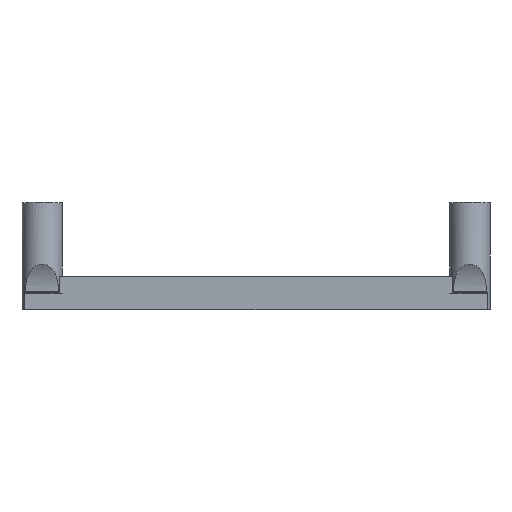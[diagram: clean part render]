
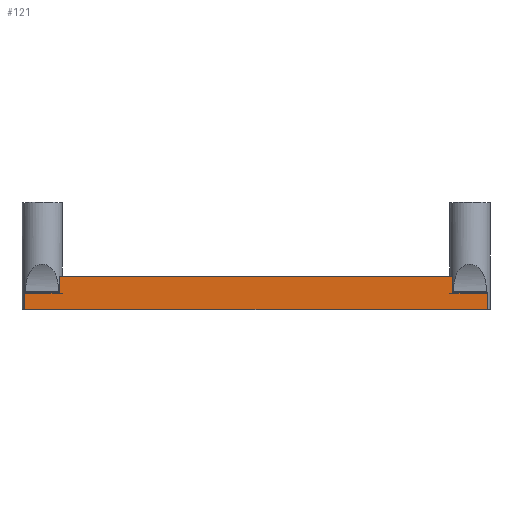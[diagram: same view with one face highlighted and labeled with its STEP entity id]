
A CAD part, top view. The second image highlights one B-rep face of the part: STEP entity #121.
In plain terms, the highlighted planar face has unit normal (0, 0, 1).
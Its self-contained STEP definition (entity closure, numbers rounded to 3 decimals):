
#121 = ADVANCED_FACE( '', ( #236 ), #237, .F. );
#236 = FACE_OUTER_BOUND( '', #340, .T. );
#237 = PLANE( '', #341 );
#340 = EDGE_LOOP( '', ( #571, #572, #573, #574, #575, #576, #577, #578, #579, #580, #581, #582 ) );
#341 = AXIS2_PLACEMENT_3D( '', #583, #584, #585 );
#571 = ORIENTED_EDGE( '', *, *, #653, .F. );
#572 = ORIENTED_EDGE( '', *, *, #658, .T. );
#573 = ORIENTED_EDGE( '', *, *, #693, .T. );
#574 = ORIENTED_EDGE( '', *, *, #670, .F. );
#575 = ORIENTED_EDGE( '', *, *, #630, .T. );
#576 = ORIENTED_EDGE( '', *, *, #647, .F. );
#577 = ORIENTED_EDGE( '', *, *, #646, .T. );
#578 = ORIENTED_EDGE( '', *, *, #645, .T. );
#579 = ORIENTED_EDGE( '', *, *, #715, .T. );
#580 = ORIENTED_EDGE( '', *, *, #703, .T. );
#581 = ORIENTED_EDGE( '', *, *, #686, .T. );
#582 = ORIENTED_EDGE( '', *, *, #654, .F. );
#583 = CARTESIAN_POINT( '', ( -5.2, -22., 3. ) );
#584 = DIRECTION( '', ( 0., 0., -1. ) );
#585 = DIRECTION( '', ( -1., 0., 0. ) );
#630 = EDGE_CURVE( '', #742, #740, #743, .F. );
#645 = EDGE_CURVE( '', #767, #765, #768, .T. );
#646 = EDGE_CURVE( '', #769, #767, #770, .T. );
#647 = EDGE_CURVE( '', #769, #740, #771, .T. );
#653 = EDGE_CURVE( '', #778, #779, #780, .F. );
#654 = EDGE_CURVE( '', #779, #781, #782, .T. );
#658 = EDGE_CURVE( '', #778, #787, #789, .T. );
#670 = EDGE_CURVE( '', #742, #804, #807, .T. );
#686 = EDGE_CURVE( '', #834, #781, #835, .T. );
#693 = EDGE_CURVE( '', #787, #804, #846, .T. );
#703 = EDGE_CURVE( '', #858, #834, #859, .T. );
#715 = EDGE_CURVE( '', #765, #858, #871, .T. );
#740 = VERTEX_POINT( '', #977 );
#742 = VERTEX_POINT( '', #984 );
#743 = LINE( '', #985, #986 );
#765 = VERTEX_POINT( '', #1094 );
#767 = VERTEX_POINT( '', #1099 );
#768 = LINE( '', #1100, #1101 );
#769 = VERTEX_POINT( '', #1102 );
#770 = B_SPLINE_CURVE_WITH_KNOTS( '', 1, ( #1103, #1104 ), .UNSPECIFIED., .F., .F., ( 2, 2 ), ( 0., 1. ), .UNSPECIFIED. );
#771 = LINE( '', #1105, #1106 );
#778 = VERTEX_POINT( '', #1115 );
#779 = VERTEX_POINT( '', #1116 );
#780 = B_SPLINE_CURVE_WITH_KNOTS( '', 3, ( #1117, #1118, #1119, #1120 ), .UNSPECIFIED., .F., .F., ( 4, 4 ), ( 0., 1. ), .UNSPECIFIED. );
#781 = VERTEX_POINT( '', #1121 );
#782 = LINE( '', #1122, #1123 );
#787 = VERTEX_POINT( '', #1134 );
#789 = LINE( '', #1141, #1142 );
#804 = VERTEX_POINT( '', #1205 );
#807 = LINE( '', #1209, #1210 );
#834 = VERTEX_POINT( '', #1251 );
#835 = LINE( '', #1252, #1253 );
#846 = LINE( '', #1346, #1347 );
#858 = VERTEX_POINT( '', #1387 );
#859 = LINE( '', #1388, #1389 );
#871 = LINE( '', #1406, #1407 );
#977 = CARTESIAN_POINT( '', ( 5.196, -27.167, 3. ) );
#984 = CARTESIAN_POINT( '', ( 5.196, -22., 3. ) );
#985 = CARTESIAN_POINT( '', ( 5.196, -32., 3. ) );
#986 = VECTOR( '', #1419, 1000. );
#1094 = CARTESIAN_POINT( '', ( -5.2, -27.2, 3. ) );
#1099 = CARTESIAN_POINT( '', ( 6., -27.2, 3. ) );
#1100 = CARTESIAN_POINT( '', ( 6., -27.2, 3. ) );
#1101 = VECTOR( '', #1430, 1000. );
#1102 = CARTESIAN_POINT( '', ( 6., -27.167, 3. ) );
#1103 = CARTESIAN_POINT( '', ( 6., -27.167, 3. ) );
#1104 = CARTESIAN_POINT( '', ( 6., -27.2, 3. ) );
#1105 = CARTESIAN_POINT( '', ( 6., -27.167, 3. ) );
#1106 = VECTOR( '', #1431, 1000. );
#1115 = CARTESIAN_POINT( '', ( 122., -27.167, 3. ) );
#1116 = CARTESIAN_POINT( '', ( 122., -27.2, 3. ) );
#1117 = CARTESIAN_POINT( '', ( 122., -27.2, 3. ) );
#1118 = CARTESIAN_POINT( '', ( 122., -27.189, 3. ) );
#1119 = CARTESIAN_POINT( '', ( 122., -27.178, 3. ) );
#1120 = CARTESIAN_POINT( '', ( 122., -27.167, 3. ) );
#1121 = CARTESIAN_POINT( '', ( 133.196, -27.2, 3. ) );
#1122 = CARTESIAN_POINT( '', ( 122., -27.2, 3. ) );
#1123 = VECTOR( '', #1437, 1000. );
#1134 = CARTESIAN_POINT( '', ( 122.804, -27.167, 3. ) );
#1141 = CARTESIAN_POINT( '', ( 122., -27.167, 3. ) );
#1142 = VECTOR( '', #1439, 1000. );
#1205 = CARTESIAN_POINT( '', ( 122.804, -22., 3. ) );
#1209 = CARTESIAN_POINT( '', ( -5.2, -22., 3. ) );
#1210 = VECTOR( '', #1450, 1000. );
#1251 = CARTESIAN_POINT( '', ( 133.196, -32., 3. ) );
#1252 = CARTESIAN_POINT( '', ( 133.196, -32., 3. ) );
#1253 = VECTOR( '', #1465, 1000. );
#1346 = CARTESIAN_POINT( '', ( 122.804, -32., 3. ) );
#1347 = VECTOR( '', #1469, 1000. );
#1387 = CARTESIAN_POINT( '', ( -5.2, -32., 3. ) );
#1388 = CARTESIAN_POINT( '', ( -5.2, -32., 3. ) );
#1389 = VECTOR( '', #1477, 1000. );
#1406 = CARTESIAN_POINT( '', ( -5.2, -22., 3. ) );
#1407 = VECTOR( '', #1483, 1000. );
#1419 = DIRECTION( '', ( 0., 1., 0. ) );
#1430 = DIRECTION( '', ( -1., 0., 0. ) );
#1431 = DIRECTION( '', ( -1., 0., 0. ) );
#1437 = DIRECTION( '', ( 1., 0., 0. ) );
#1439 = DIRECTION( '', ( 1., 0., 0. ) );
#1450 = DIRECTION( '', ( 1., 0., 0. ) );
#1465 = DIRECTION( '', ( 0., 1., 0. ) );
#1469 = DIRECTION( '', ( 0., 1., 0. ) );
#1477 = DIRECTION( '', ( 1., 0., 0. ) );
#1483 = DIRECTION( '', ( 0., -1., 0. ) );
